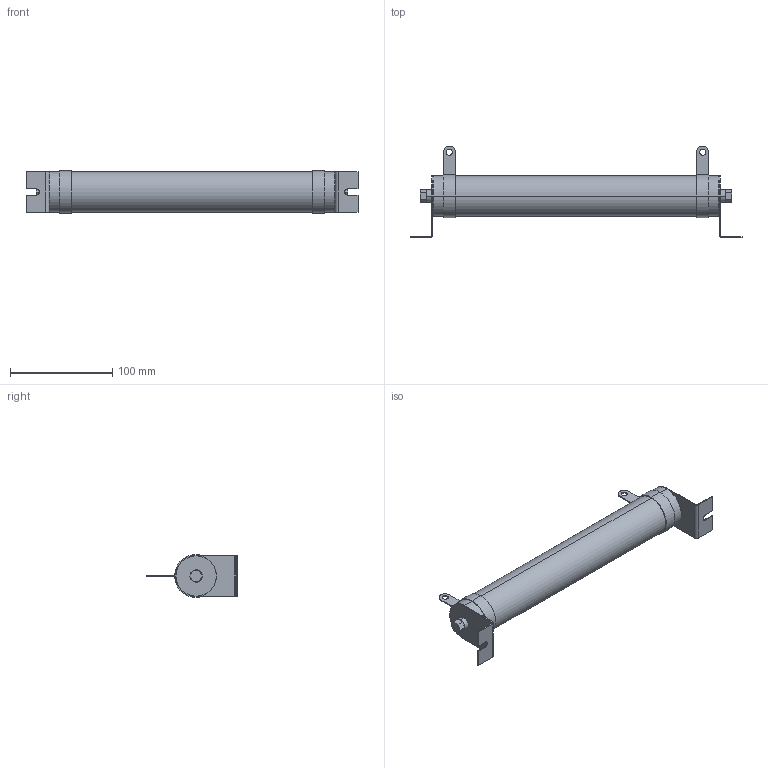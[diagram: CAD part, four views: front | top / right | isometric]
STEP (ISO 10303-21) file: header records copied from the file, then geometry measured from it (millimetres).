
FILE_DESCRIPTION (( 'STEP AP203' ), '1' );
FILE_NAME ('IRT-400-250.STEP', '2022-11-16T11:59:10', ( '' ), ( '' ), 'SwSTEP 2.0', 'SolidWorks 2018', '' );
FILE_SCHEMA (( 'CONFIG_CONTROL_DESIGN' ));
Length unit declared in the file: millimetre
Products named in the file (1): IRT-400-250
Bounding box: 325 x 90 x 42 mm (x, y, z)
Volume: 363861.2 mm3; surface area: 48175.5 mm2
Topology: 1 solids, 1 shells, 94 faces, 222 edges, 140 vertices
Faces by surface type: plane 56, cylinder 38
Entity records: 2787 total; most frequent: DIRECTION 500, CARTESIAN_POINT 457, ORIENTED_EDGE 444, EDGE_CURVE 222, AXIS2_PLACEMENT_3D 183, VERTEX_POINT 140, VECTOR 134, LINE 134
